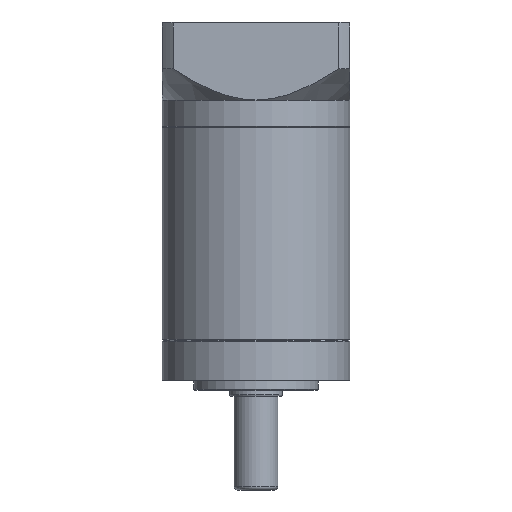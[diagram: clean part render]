
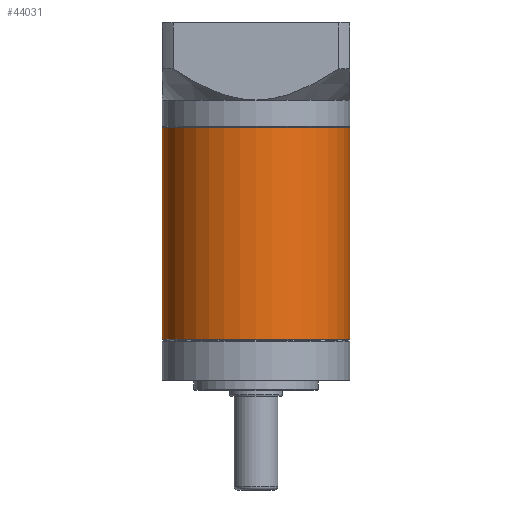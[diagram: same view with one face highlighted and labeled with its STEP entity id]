
A CAD part, front view. The second image highlights one B-rep face of the part: STEP entity #44031.
In plain terms, the highlighted cylindrical face has radius 30 mm (diameter 60 mm), a partial arc.
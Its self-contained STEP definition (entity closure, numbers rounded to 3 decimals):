
#851 = CARTESIAN_POINT ( 'NONE',  ( -32.512, 25.705, -17.169 ) ) ;
#5856 = DIRECTION ( 'NONE',  ( 0., 0., 1. ) ) ;
#10137 = EDGE_CURVE ( 'NONE', #54850, #49627, #106506, .T. ) ;
#13028 = LINE ( 'NONE', #851, #98553 ) ;
#13905 = LINE ( 'NONE', #51509, #99400 ) ;
#15943 = DIRECTION ( 'NONE',  ( -1., 0., 0. ) ) ;
#21487 = FACE_OUTER_BOUND ( 'NONE', #27867, .T. ) ;
#21608 = CARTESIAN_POINT ( 'NONE',  ( -62.512, 25.705, -17.419 ) ) ;
#23927 = CARTESIAN_POINT ( 'NONE',  ( -62.512, 25.705, -17.169 ) ) ;
#25173 = DIRECTION ( 'NONE',  ( 0., 0., -1. ) ) ;
#25252 = CIRCLE ( 'NONE', #34870, 30. ) ;
#26315 = EDGE_CURVE ( 'NONE', #58513, #49627, #13028, .T. ) ;
#26868 = DIRECTION ( 'NONE',  ( 0., 0., -1. ) ) ;
#27867 = EDGE_LOOP ( 'NONE', ( #93409, #65679, #63488, #72174 ) ) ;
#29919 = DIRECTION ( 'NONE',  ( 1., 0., 0. ) ) ;
#34870 = AXIS2_PLACEMENT_3D ( 'NONE', #21608, #79585, #29919 ) ;
#44031 = ADVANCED_FACE ( 'NONE', ( #21487 ), #56710, .T. ) ;
#47691 = VERTEX_POINT ( 'NONE', #100736 ) ;
#49627 = VERTEX_POINT ( 'NONE', #78329 ) ;
#51509 = CARTESIAN_POINT ( 'NONE',  ( -92.512, 25.705, -17.169 ) ) ;
#54850 = VERTEX_POINT ( 'NONE', #88906 ) ;
#55539 = CARTESIAN_POINT ( 'NONE',  ( -62.512, 25.705, -85.219 ) ) ;
#56710 = CYLINDRICAL_SURFACE ( 'NONE', #96633, 30. ) ;
#58513 = VERTEX_POINT ( 'NONE', #74945 ) ;
#63488 = ORIENTED_EDGE ( 'NONE', *, *, #98512, .T. ) ;
#63865 = DIRECTION ( 'NONE',  ( 1., 0., 0. ) ) ;
#65679 = ORIENTED_EDGE ( 'NONE', *, *, #95461, .T. ) ;
#70195 = AXIS2_PLACEMENT_3D ( 'NONE', #55539, #5856, #63865 ) ;
#72174 = ORIENTED_EDGE ( 'NONE', *, *, #10137, .T. ) ;
#74945 = CARTESIAN_POINT ( 'NONE',  ( -32.512, 25.705, -17.419 ) ) ;
#78329 = CARTESIAN_POINT ( 'NONE',  ( -32.512, 25.705, -85.219 ) ) ;
#79585 = DIRECTION ( 'NONE',  ( 0., 0., -1. ) ) ;
#88906 = CARTESIAN_POINT ( 'NONE',  ( -92.512, 25.705, -85.219 ) ) ;
#90196 = DIRECTION ( 'NONE',  ( 0., 0., -1. ) ) ;
#93409 = ORIENTED_EDGE ( 'NONE', *, *, #26315, .F. ) ;
#95461 = EDGE_CURVE ( 'NONE', #58513, #47691, #25252, .T. ) ;
#96633 = AXIS2_PLACEMENT_3D ( 'NONE', #23927, #90196, #15943 ) ;
#98512 = EDGE_CURVE ( 'NONE', #47691, #54850, #13905, .T. ) ;
#98553 = VECTOR ( 'NONE', #25173, 1000. ) ;
#99400 = VECTOR ( 'NONE', #26868, 1000. ) ;
#100736 = CARTESIAN_POINT ( 'NONE',  ( -92.512, 25.705, -17.419 ) ) ;
#106506 = CIRCLE ( 'NONE', #70195, 30. ) ;
